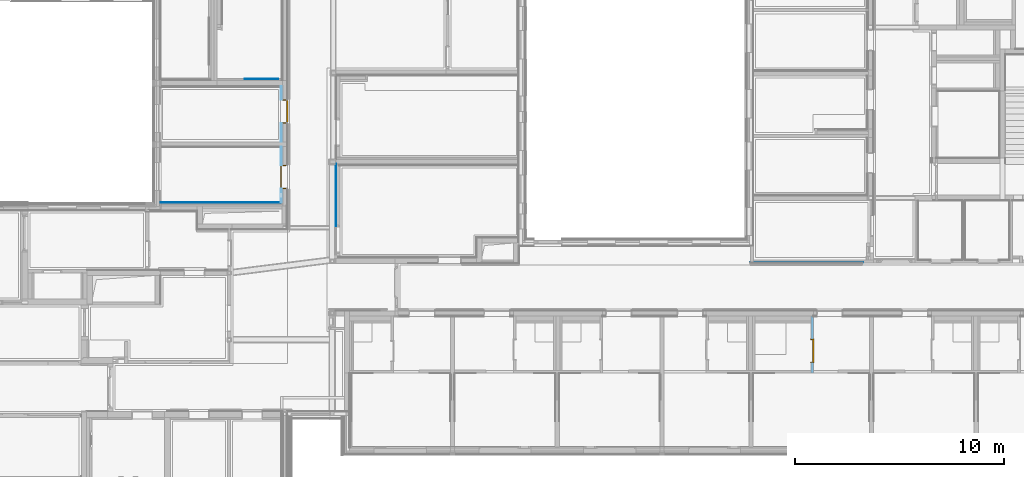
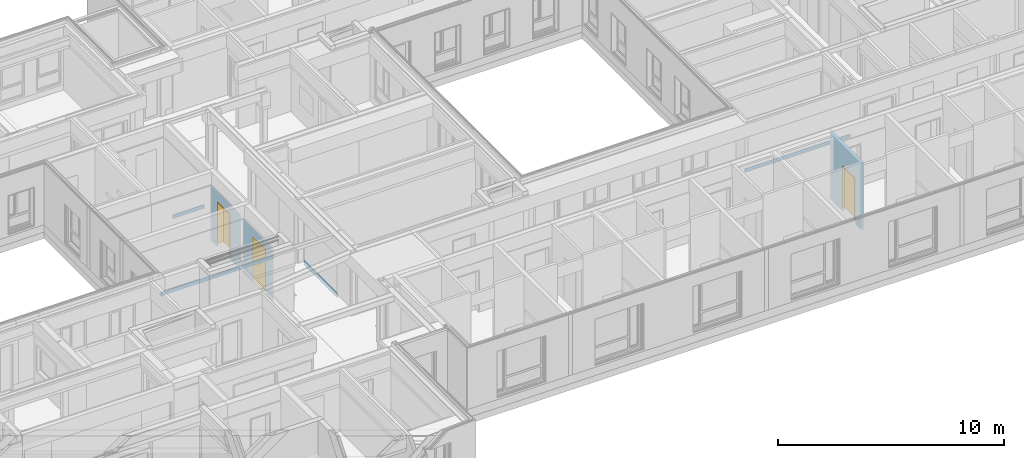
# One storey, part 127 of 207: 4 walls, 3 doors, 3 openings, plus 3 elements that do not belong to this part.
"""IFC4 building model written with IfcOpenShell, lengths in metres."""

from ifc_helpers import new_model, entity, si_unit, converted_unit, derived_unit, frame, frame_2d, origin, origin_with_axes, place, context, subcontext, project, spatial, polyline, rectangle, outline, extrude, faceted_brep, source, transform, mapped, material, type_object, element, fill, save


model = new_model("IFC4")

# Units and contexts
model_context = context("Model", 3, precision=1e-05, world=origin())
body_context = subcontext(model_context, "Body", "Model", "MODEL_VIEW")
ifc_project = project(units=[si_unit("LENGTHUNIT", "METRE"), si_unit("AREAUNIT", "SQUARE_METRE"), si_unit("VOLUMEUNIT", "CUBIC_METRE"), si_unit("MASSUNIT", "GRAM", prefix="KILO"), converted_unit("PLANEANGLEUNIT", "DEGREE", entity("IfcPlaneAngleMeasure", 0.0174532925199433), si_unit("PLANEANGLEUNIT", "RADIAN"), dimensions=[0, 0, 0, 0, 0, 0, 0]), derived_unit("THERMALTRANSMITTANCEUNIT", [(si_unit("POWERUNIT", "WATT"), 1), (si_unit("THERMODYNAMICTEMPERATUREUNIT", "KELVIN"), -1), (si_unit("LENGTHUNIT", "METRE"), -2)]), derived_unit("VOLUMETRICFLOWRATEUNIT", [(si_unit("LENGTHUNIT", "METRE"), 3), (converted_unit("TIMEUNIT", "hour", entity("IfcTimeMeasure", 3600.0), si_unit("TIMEUNIT", "SECOND"), dimensions=[0, 0, 1, 0, 0, 0, 0]), -1), (si_unit("LENGTHUNIT", "METRE"), -1)])], contexts=[model_context])

# Site, building, storey
site_placement = place(None, origin())
site = spatial("IfcSite", under=ifc_project, at=site_placement, Name="Psychiatrie Neubau Wunstorf", CompositionType="ELEMENT")
building_placement = place(site_placement, origin())
building = spatial("IfcBuilding", under=site, at=building_placement, Name="Neubau H2 Stationsgebäude", CompositionType="ELEMENT")
storey_placement = place(building_placement, frame((0.0, 0.0, -0.2)))
storey = spatial("IfcBuildingStorey", under=building, at=storey_placement, Name="H2 Ebene 0", CompositionType="ELEMENT", Elevation=-0.2)

# Walls
wall_1_placement = place(storey_placement, frame((66.0788893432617, 16.3860000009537, 1.55)))
element("IfcWall", 1, at=wall_1_placement, inside=storey, Name="WV 1.1", context=body_context, shape_type="Brep", body=[
    faceted_brep([(0.0, 0.025, 0.0), (0.0, 0.0, 0.0), (1.6, 0.0, 0.0), (1.6, 0.025, 0.0), (0.0, 0.0, 0.2), (0.0, 0.025, 0.2), (1.6, 0.025, 0.2), (1.6, 0.0, 0.2)], [[[0, 1, 2, 3]], [[4, 5, 6, 7]], [[1, 0, 5, 4]], [[2, 1, 4, 7]], [[3, 2, 7, 6]], [[0, 3, 6, 5]]], orient=[[False], [False], [False], [False], [False], [False]]),
])
wall_2_placement = place(storey_placement, frame((62.06100019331, 10.4959952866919, 2.35)))
element("IfcWall", 2, at=wall_2_placement, inside=storey, Name="WV 1.1", context=body_context, shape_type="Brep", body=[
    faceted_brep([(5.74, 0.0, 0.0), (5.74, 0.025, 0.0), (0.0, 0.0249999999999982, 0.0), (0.0, 0.0, 0.0), (5.74, 0.025, 0.2), (5.74, 0.0, 0.2), (0.0, 0.0, 0.2), (0.0, 0.0249999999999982, 0.2)], [[[0, 1, 2, 3]], [[4, 5, 6, 7]], [[1, 0, 5, 4]], [[2, 1, 4, 7]], [[3, 2, 7, 6]], [[0, 3, 6, 5]]], orient=[[False], [False], [False], [False], [False], [False]]),
])
wall_3_placement = place(storey_placement, frame((90.211, 7.62499989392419, 0.9)))
element("IfcWall", 3, at=wall_3_placement, inside=storey, Name="WV 1.1", context=body_context, shape_type="Brep", body=[
    faceted_brep([(0.0, 0.025, 0.0), (0.0, 0.0, 0.0), (5.4, 0.0, 0.0), (5.4, 0.025, 0.0), (0.0, 0.0, 0.2), (0.0, 0.025, 0.2), (5.4, 0.025, 0.2), (5.4, 0.0, 0.2)], [[[0, 1, 2, 3]], [[4, 5, 6, 7]], [[1, 0, 5, 4]], [[2, 1, 4, 7]], [[3, 2, 7, 6]], [[0, 3, 6, 5]]], orient=[[False], [False], [False], [False], [False], [False]]),
])

# Wall, opening, door
ifc_material_1 = material(Name="WI-LB")
wall_4_placement = place(storey_placement, frame((93.1000000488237, 5.1005, 0.0), z_axis=(0.0, 0.0, 1.0), x_axis=(0.0, -1.0, 0.0)))
wall_4 = element("IfcWall", 4, at=wall_4_placement, inside=storey, material=ifc_material_1, context=body_context, shape_type="SweptSolid", body=[
    extrude(rectangle(XDim=2.74, YDim=0.125, at=frame_2d((1.37, 0.0625), x_axis=(1.0, 0.0))), origin_with_axes(), (0.0, 0.0, 1.0), 3.6),
])
opening_1_placement = place(wall_4_placement, frame((1.105, 0.0, 0.0), z_axis=(0.0, 1.0, 0.0), x_axis=(0.0, 0.0, 1.0)))
opening_1 = element("IfcOpeningElement", 5, at=opening_1_placement, cuts=wall_4, Name="Türöffnung", ObjectType="Opening", context=body_context, shape_type="SweptSolid", body=[
    extrude(outline(polyline([(2.46, 1.135), (2.46, 0.0), (0.0, 0.0), (0.0, 1.135), (2.46, 1.135)])), origin_with_axes(), (0.0, 0.0, 1.0), 0.125),
])
ifc_material_2 = material(Name="TI-1F-UZ-D-N")
door_type_1 = type_object("IfcDoorType", Name="SMT", OperationType="SINGLE_SWING_RIGHT", ParameterTakesPrecedence=False, PredefinedType="DOOR")
shared_shape_1 = source(origin_with_axes(), body_context, "Body", "Brep", [
    faceted_brep([(-0.0499999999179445, 0.0125000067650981, 0.0), (0.0, 0.0125000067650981, 0.0), (0.0, 0.112499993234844, 0.0), (-0.0499999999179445, 0.112499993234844, 0.0), (-0.0499999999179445, 0.112499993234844, 3.6), (0.0, 0.112499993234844, 3.6), (0.0, 0.0125000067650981, 3.6), (-0.0499999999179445, 0.0125000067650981, 3.6)], [[[0, 1, 2, 3]], [[4, 5, 6, 7]], [[3, 4, 7, 0]], [[2, 5, 4, 3]], [[1, 6, 5, 2]], [[0, 7, 6, 1]]], orient=[[False], [False], [False], [False], [False], [False]]),
    faceted_brep([(1.135, 0.0125000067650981, 0.0), (1.18499999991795, 0.0125000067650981, 0.0), (1.18499999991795, 0.112499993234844, 0.0), (1.135, 0.112499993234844, 0.0), (1.135, 0.112499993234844, 3.6), (1.18499999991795, 0.112499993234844, 3.6), (1.18499999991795, 0.0125000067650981, 3.6), (1.135, 0.0125000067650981, 3.6)], [[[0, 1, 2, 3]], [[4, 5, 6, 7]], [[3, 4, 7, 0]], [[2, 5, 4, 3]], [[1, 6, 5, 2]], [[0, 7, 6, 1]]], orient=[[False], [False], [False], [False], [False], [False]]),
    faceted_brep([(0.0, 0.0125000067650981, 2.46), (1.135, 0.0125000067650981, 2.46), (1.135, 0.112499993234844, 2.46), (0.0, 0.112499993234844, 2.46), (0.0, 0.112499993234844, 2.51), (1.135, 0.112499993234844, 2.51), (1.135, 0.0125000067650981, 2.51), (0.0, 0.0125000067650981, 2.51)], [[[0, 1, 2, 3]], [[4, 5, 6, 7]], [[3, 4, 7, 0]], [[2, 5, 4, 3]], [[1, 6, 5, 2]], [[0, 7, 6, 1]]], orient=[[False], [False], [False], [False], [False], [False]]),
])
shared_shape_2 = source(origin_with_axes(), body_context, "Body", "Brep", [
    faceted_brep([(0.0, -0.0150000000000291, 2.46), (0.0400000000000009, -0.0150000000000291, 2.46), (0.0400000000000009, -0.0150000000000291, 0.2), (0.0, -0.0150000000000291, 0.2), (0.0, 0.139999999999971, 0.2), (0.0400000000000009, 0.139999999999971, 0.2), (0.0400000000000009, 0.139999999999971, 2.46), (0.0, 0.139999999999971, 2.46)], [[[0, 1, 2, 3]], [[4, 5, 6, 7]], [[3, 4, 7, 0]], [[2, 5, 4, 3]], [[1, 6, 5, 2]], [[0, 7, 6, 1]]], orient=[[False], [False], [False], [False], [False], [False]]),
    faceted_brep([(0.0, -0.0150000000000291, 2.475), (0.0, -0.0150000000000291, 0.2), (-0.0149999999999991, -0.0150000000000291, 0.2), (-0.0149999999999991, -0.0150000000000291, 2.475), (0.0, 0.0, 0.2), (0.0, 0.0, 2.475), (-0.0149999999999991, 0.0, 2.475), (-0.0149999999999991, 0.0, 0.2)], [[[0, 1, 2, 3]], [[4, 5, 6, 7]], [[1, 0, 5, 4]], [[2, 1, 4, 7]], [[3, 2, 7, 6]], [[0, 3, 6, 5]]], orient=[[False], [False], [False], [False], [False], [False]]),
    faceted_brep([(0.0, 0.124999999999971, 2.475), (0.0, 0.124999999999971, 0.2), (-0.0149999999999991, 0.124999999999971, 0.2), (-0.0149999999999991, 0.124999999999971, 2.475), (0.0, 0.139999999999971, 0.2), (0.0, 0.139999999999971, 2.475), (-0.0149999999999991, 0.139999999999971, 2.475), (-0.0149999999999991, 0.139999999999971, 0.2)], [[[0, 1, 2, 3]], [[4, 5, 6, 7]], [[1, 0, 5, 4]], [[2, 1, 4, 7]], [[3, 2, 7, 6]], [[0, 3, 6, 5]]], orient=[[False], [False], [False], [False], [False], [False]]),
    faceted_brep([(1.095, -0.0150000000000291, 2.46), (1.135, -0.0150000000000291, 2.46), (1.135, -0.0150000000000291, 0.2), (1.095, -0.0150000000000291, 0.2), (1.095, 0.139999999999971, 0.2), (1.135, 0.139999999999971, 0.2), (1.135, 0.139999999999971, 2.46), (1.095, 0.139999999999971, 2.46)], [[[0, 1, 2, 3]], [[4, 5, 6, 7]], [[3, 4, 7, 0]], [[2, 5, 4, 3]], [[1, 6, 5, 2]], [[0, 7, 6, 1]]], orient=[[False], [False], [False], [False], [False], [False]]),
    faceted_brep([(1.135, -0.0150000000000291, 2.475), (1.15, -0.0150000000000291, 2.475), (1.15, -0.0150000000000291, 0.2), (1.135, -0.0150000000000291, 0.2), (1.135, 0.0, 0.2), (1.15, 0.0, 0.2), (1.15, 0.0, 2.475), (1.135, 0.0, 2.475)], [[[0, 1, 2, 3]], [[4, 5, 6, 7]], [[3, 4, 7, 0]], [[2, 5, 4, 3]], [[1, 6, 5, 2]], [[0, 7, 6, 1]]], orient=[[False], [False], [False], [False], [False], [False]]),
    faceted_brep([(1.135, 0.124999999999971, 2.475), (1.15, 0.124999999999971, 2.475), (1.15, 0.124999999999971, 0.2), (1.135, 0.124999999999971, 0.2), (1.135, 0.139999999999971, 0.2), (1.15, 0.139999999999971, 0.2), (1.15, 0.139999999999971, 2.475), (1.135, 0.139999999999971, 2.475)], [[[0, 1, 2, 3]], [[4, 5, 6, 7]], [[3, 4, 7, 0]], [[2, 5, 4, 3]], [[1, 6, 5, 2]], [[0, 7, 6, 1]]], orient=[[False], [False], [False], [False], [False], [False]]),
    faceted_brep([(0.0400000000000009, -0.0150000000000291, 2.46), (1.095, -0.0150000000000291, 2.46), (1.095, -0.0150000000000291, 2.42), (0.0400000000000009, -0.0150000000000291, 2.42), (0.0400000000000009, 0.139999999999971, 2.42), (1.095, 0.139999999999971, 2.42), (1.095, 0.139999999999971, 2.46), (0.0400000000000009, 0.139999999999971, 2.46)], [[[0, 1, 2, 3]], [[4, 5, 6, 7]], [[3, 4, 7, 0]], [[2, 5, 4, 3]], [[1, 6, 5, 2]], [[0, 7, 6, 1]]], orient=[[False], [False], [False], [False], [False], [False]]),
    faceted_brep([(0.0, -0.0150000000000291, 2.475), (1.135, -0.0150000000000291, 2.475), (1.135, -0.0150000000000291, 2.46), (0.0, -0.0150000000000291, 2.46), (0.0, 0.0, 2.46), (1.135, 0.0, 2.46), (1.135, 0.0, 2.475), (0.0, 0.0, 2.475)], [[[0, 1, 2, 3]], [[4, 5, 6, 7]], [[3, 4, 7, 0]], [[2, 5, 4, 3]], [[1, 6, 5, 2]], [[0, 7, 6, 1]]], orient=[[False], [False], [False], [False], [False], [False]]),
    faceted_brep([(0.0, 0.124999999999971, 2.475), (1.135, 0.124999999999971, 2.475), (1.135, 0.124999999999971, 2.46), (0.0, 0.124999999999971, 2.46), (0.0, 0.139999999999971, 2.46), (1.135, 0.139999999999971, 2.46), (1.135, 0.139999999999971, 2.475), (0.0, 0.139999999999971, 2.475)], [[[0, 1, 2, 3]], [[4, 5, 6, 7]], [[3, 4, 7, 0]], [[2, 5, 4, 3]], [[1, 6, 5, 2]], [[0, 7, 6, 1]]], orient=[[False], [False], [False], [False], [False], [False]]),
    faceted_brep([(0.0250000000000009, 0.0909999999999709, 2.435), (1.11, 0.0909999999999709, 2.435), (1.11, 0.0909999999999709, 0.2), (0.0250000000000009, 0.0909999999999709, 0.2), (0.0250000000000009, 0.140999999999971, 0.2), (1.11, 0.140999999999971, 0.2), (1.11, 0.140999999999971, 2.435), (0.0250000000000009, 0.140999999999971, 2.435)], [[[0, 1, 2, 3]], [[4, 5, 6, 7]], [[3, 4, 7, 0]], [[2, 5, 4, 3]], [[1, 6, 5, 2]], [[0, 7, 6, 1]]], orient=[[False], [False], [False], [False], [False], [False]]),
])
door_1_placement = place(opening_1_placement, frame((0.0, 0.0, 0.0), z_axis=(1.0, 0.0, 0.0), x_axis=(0.0, 1.0, 0.0)))
door_1 = element("IfcDoor", 6, at=door_1_placement, inside=storey, type_object=door_type_1, material=ifc_material_2, Name="SMT", OverallHeight=2.46, OverallWidth=1.135, context=body_context, shape_type="MappedRepresentation", body=[
    mapped(shared_shape_1, transform((0.0, 0.0, 0.0), x_axis=(1.0, 0.0, 0.0), y_axis=(0.0, 1.0, 0.0), z_axis=(0.0, 0.0, 1.0), scale=1.0)),
    mapped(shared_shape_2, transform((0.0, 0.0, 0.0), x_axis=(1.0, 0.0, 0.0), y_axis=(0.0, 1.0, 0.0), z_axis=(0.0, 0.0, 1.0), scale=1.0)),
])
fill(opening_1, door_1)

ifc_material_3 = material(Name="WI-LB")
wall_5_placement = place(storey_placement, frame((67.796, 16.0535000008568, 0.0), z_axis=(0.0, 0.0, 1.0), x_axis=(0.0, -1.0, 0.0)))
wall_5 = element("IfcWall", 7, at=wall_5_placement, inside=storey, material=ifc_material_3, context=body_context, shape_type="SweptSolid", body=[
    extrude(rectangle(XDim=2.64400336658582, YDim=0.0395, at=frame_2d((1.32200168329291, 0.01975), x_axis=(1.0, 0.0))), origin_with_axes(), (0.0, 0.0, 1.0), 2.95),
])
opening_2_placement = place(wall_5_placement, frame((1.7635, 0.0395, 0.0), z_axis=(0.0, -1.0, 0.0), x_axis=(0.0, 0.0, 1.0)))
opening_2 = element("IfcOpeningElement", 8, at=opening_2_placement, cuts=wall_5, Name="Türöffnung", ObjectType="Opening", context=body_context, shape_type="SweptSolid", body=[
    extrude(outline(polyline([(2.46, 1.135), (2.46, 0.0), (0.0, 0.0), (0.0, 1.135), (2.46, 1.135)])), origin_with_axes(), (0.0, 0.0, 1.0), 0.0395),
])
ifc_material_4 = material(Name="TI-1F-UZ-D")
door_type_2 = type_object("IfcDoorType", Name="SMT", OperationType="SINGLE_SWING_RIGHT", ParameterTakesPrecedence=False, PredefinedType="DOOR")
shared_shape_3 = source(origin_with_axes(), body_context, "Body", "Brep", [
    faceted_brep([(0.0, -0.0150000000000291, 2.46), (0.0400000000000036, -0.0150000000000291, 2.46), (0.0400000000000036, -0.0150000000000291, 0.2), (0.0, -0.0150000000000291, 0.2), (0.0, 0.336499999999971, 0.2), (0.0400000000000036, 0.336499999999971, 0.2), (0.0400000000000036, 0.336499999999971, 2.46), (0.0, 0.336499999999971, 2.46)], [[[0, 1, 2, 3]], [[4, 5, 6, 7]], [[3, 4, 7, 0]], [[2, 5, 4, 3]], [[1, 6, 5, 2]], [[0, 7, 6, 1]]], orient=[[False], [False], [False], [False], [False], [False]]),
    faceted_brep([(0.0, -0.0150000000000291, 2.475), (0.0, -0.0150000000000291, 0.2), (-0.0149999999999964, -0.0150000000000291, 0.2), (-0.0149999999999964, -0.0150000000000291, 2.475), (0.0, 0.0, 0.2), (0.0, 0.0, 2.475), (-0.0149999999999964, 0.0, 2.475), (-0.0149999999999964, 0.0, 0.2)], [[[0, 1, 2, 3]], [[4, 5, 6, 7]], [[1, 0, 5, 4]], [[2, 1, 4, 7]], [[3, 2, 7, 6]], [[0, 3, 6, 5]]], orient=[[False], [False], [False], [False], [False], [False]]),
    faceted_brep([(0.0, 0.321499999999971, 2.475), (0.0, 0.321499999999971, 0.2), (-0.0149999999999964, 0.321499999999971, 0.2), (-0.0149999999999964, 0.321499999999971, 2.475), (0.0, 0.336499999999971, 0.2), (0.0, 0.336499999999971, 2.475), (-0.0149999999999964, 0.336499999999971, 2.475), (-0.0149999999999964, 0.336499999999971, 0.2)], [[[0, 1, 2, 3]], [[4, 5, 6, 7]], [[1, 0, 5, 4]], [[2, 1, 4, 7]], [[3, 2, 7, 6]], [[0, 3, 6, 5]]], orient=[[False], [False], [False], [False], [False], [False]]),
    faceted_brep([(1.095, -0.0150000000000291, 2.46), (1.135, -0.0150000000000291, 2.46), (1.135, -0.0150000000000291, 0.2), (1.095, -0.0150000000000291, 0.2), (1.095, 0.336499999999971, 0.2), (1.135, 0.336499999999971, 0.2), (1.135, 0.336499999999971, 2.46), (1.095, 0.336499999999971, 2.46)], [[[0, 1, 2, 3]], [[4, 5, 6, 7]], [[3, 4, 7, 0]], [[2, 5, 4, 3]], [[1, 6, 5, 2]], [[0, 7, 6, 1]]], orient=[[False], [False], [False], [False], [False], [False]]),
    faceted_brep([(1.135, -0.0150000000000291, 2.475), (1.15, -0.0150000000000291, 2.475), (1.15, -0.0150000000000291, 0.2), (1.135, -0.0150000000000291, 0.2), (1.135, 0.0, 0.2), (1.15, 0.0, 0.2), (1.15, 0.0, 2.475), (1.135, 0.0, 2.475)], [[[0, 1, 2, 3]], [[4, 5, 6, 7]], [[3, 4, 7, 0]], [[2, 5, 4, 3]], [[1, 6, 5, 2]], [[0, 7, 6, 1]]], orient=[[False], [False], [False], [False], [False], [False]]),
    faceted_brep([(1.135, 0.321499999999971, 2.475), (1.15, 0.321499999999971, 2.475), (1.15, 0.321499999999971, 0.2), (1.135, 0.321499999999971, 0.2), (1.135, 0.336499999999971, 0.2), (1.15, 0.336499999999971, 0.2), (1.15, 0.336499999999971, 2.475), (1.135, 0.336499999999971, 2.475)], [[[0, 1, 2, 3]], [[4, 5, 6, 7]], [[3, 4, 7, 0]], [[2, 5, 4, 3]], [[1, 6, 5, 2]], [[0, 7, 6, 1]]], orient=[[False], [False], [False], [False], [False], [False]]),
    faceted_brep([(0.0400000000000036, -0.0150000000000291, 2.46), (1.095, -0.0150000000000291, 2.46), (1.095, -0.0150000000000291, 2.42), (0.0400000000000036, -0.0150000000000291, 2.42), (0.0400000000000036, 0.336499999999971, 2.42), (1.095, 0.336499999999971, 2.42), (1.095, 0.336499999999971, 2.46), (0.0400000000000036, 0.336499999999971, 2.46)], [[[0, 1, 2, 3]], [[4, 5, 6, 7]], [[3, 4, 7, 0]], [[2, 5, 4, 3]], [[1, 6, 5, 2]], [[0, 7, 6, 1]]], orient=[[False], [False], [False], [False], [False], [False]]),
    faceted_brep([(0.0, -0.0150000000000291, 2.475), (1.135, -0.0150000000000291, 2.475), (1.135, -0.0150000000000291, 2.46), (0.0, -0.0150000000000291, 2.46), (0.0, 0.0, 2.46), (1.135, 0.0, 2.46), (1.135, 0.0, 2.475), (0.0, 0.0, 2.475)], [[[0, 1, 2, 3]], [[4, 5, 6, 7]], [[3, 4, 7, 0]], [[2, 5, 4, 3]], [[1, 6, 5, 2]], [[0, 7, 6, 1]]], orient=[[False], [False], [False], [False], [False], [False]]),
    faceted_brep([(0.0, 0.321499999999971, 2.475), (1.135, 0.321499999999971, 2.475), (1.135, 0.321499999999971, 2.46), (0.0, 0.321499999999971, 2.46), (0.0, 0.336499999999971, 2.46), (1.135, 0.336499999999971, 2.46), (1.135, 0.336499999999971, 2.475), (0.0, 0.336499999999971, 2.475)], [[[0, 1, 2, 3]], [[4, 5, 6, 7]], [[3, 4, 7, 0]], [[2, 5, 4, 3]], [[1, 6, 5, 2]], [[0, 7, 6, 1]]], orient=[[False], [False], [False], [False], [False], [False]]),
    faceted_brep([(0.0250000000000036, 0.287499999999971, 2.435), (1.11, 0.287499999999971, 2.435), (1.11, 0.287499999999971, 0.2), (0.0250000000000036, 0.287499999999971, 0.2), (0.0250000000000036, 0.337499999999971, 0.2), (1.11, 0.337499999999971, 0.2), (1.11, 0.337499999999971, 2.435), (0.0250000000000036, 0.337499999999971, 2.435)], [[[0, 1, 2, 3]], [[4, 5, 6, 7]], [[3, 4, 7, 0]], [[2, 5, 4, 3]], [[1, 6, 5, 2]], [[0, 7, 6, 1]]], orient=[[False], [False], [False], [False], [False], [False]]),
])
door_2_placement = place(opening_2_placement, frame((0.0, 1.135, 0.0395), z_axis=(1.0, 0.0, 0.0), x_axis=(0.0, -1.0, 0.0)))
door_2 = element("IfcDoor", 9, at=door_2_placement, inside=storey, type_object=door_type_2, material=ifc_material_4, Name="SMT", OverallHeight=2.46, OverallWidth=1.135, context=body_context, shape_type="MappedRepresentation", body=[
    mapped(shared_shape_3, transform((0.0, 0.0, 0.0), x_axis=(1.0, 0.0, 0.0), y_axis=(0.0, 1.0, 0.0), z_axis=(0.0, 0.0, 1.0), scale=1.0)),
])
fill(opening_2, door_2)

# Wall
wall_6_placement = place(storey_placement, frame((70.43, 9.37400000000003, 0.0)))
element("IfcWall", 10, at=wall_6_placement, inside=storey, Name="WV 1.1", context=body_context, shape_type="Brep", body=[
    faceted_brep([(0.025, 2.98, 0.0), (0.0, 2.98, 0.0), (0.0, 0.0, 0.0), (0.025, 0.0, 0.0), (0.0, 2.98, 0.25), (0.025, 2.98, 0.25), (0.025, 0.0, 0.25), (0.0, 0.0, 0.25)], [[[0, 1, 2, 3]], [[4, 5, 6, 7]], [[1, 0, 5, 4]], [[2, 1, 4, 7]], [[3, 2, 7, 6]], [[0, 3, 6, 5]]], orient=[[False], [False], [False], [False], [False], [False]]),
])

# Wall, opening, door
ifc_material_5 = material(Name="WI-LB")
wall_7_placement = place(storey_placement, frame((67.796, 13.177496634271, 0.0), z_axis=(0.0, 0.0, 1.0), x_axis=(0.0, -1.0, 0.0)))
wall_7 = element("IfcWall", 11, at=wall_7_placement, inside=storey, material=ifc_material_5, context=body_context, shape_type="SweptSolid", body=[
    extrude(rectangle(XDim=2.65650134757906, YDim=0.0395, at=frame_2d((1.32825067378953, 0.01975), x_axis=(1.0, 0.0))), origin_with_axes(), (0.0, 0.0, 1.0), 2.9),
])
opening_3_placement = place(wall_7_placement, frame((2.01892492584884, 0.0395, 0.0), z_axis=(0.0, -1.0, 0.0), x_axis=(0.0, 0.0, 1.0)))
opening_3 = element("IfcOpeningElement", 12, at=opening_3_placement, cuts=wall_7, Name="Türöffnung", ObjectType="Opening", context=body_context, shape_type="SweptSolid", body=[
    extrude(outline(polyline([(2.46, 1.135), (2.46, 0.0), (0.0, 0.0), (0.0, 1.135), (2.46, 1.135)])), origin_with_axes(), (0.0, 0.0, 1.0), 0.0395),
])
ifc_material_6 = material(Name="TI-1F-UZ-ZK")
door_type_3 = type_object("IfcDoorType", Name="SMT", OperationType="SINGLE_SWING_RIGHT", ParameterTakesPrecedence=False, PredefinedType="DOOR")
shared_shape_4 = source(origin_with_axes(), body_context, "Body", "Brep", [
    faceted_brep([(1.135, -0.0149999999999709, 2.46), (1.135, -0.0149999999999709, 0.2), (1.095, -0.0149999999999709, 0.2), (1.095, -0.0149999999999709, 2.46), (1.135, 0.336500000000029, 0.2), (1.135, 0.336500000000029, 2.46), (1.095, 0.336500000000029, 2.46), (1.095, 0.336500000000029, 0.2)], [[[0, 1, 2, 3]], [[4, 5, 6, 7]], [[1, 0, 5, 4]], [[2, 1, 4, 7]], [[3, 2, 7, 6]], [[0, 3, 6, 5]]], orient=[[False], [False], [False], [False], [False], [False]]),
    faceted_brep([(1.135, -0.0149999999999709, 2.475), (1.15, -0.0149999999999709, 2.475), (1.15, -0.0149999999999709, 0.2), (1.135, -0.0149999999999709, 0.2), (1.135, 0.0, 0.2), (1.15, 0.0, 0.2), (1.15, 0.0, 2.475), (1.135, 0.0, 2.475)], [[[0, 1, 2, 3]], [[4, 5, 6, 7]], [[3, 4, 7, 0]], [[2, 5, 4, 3]], [[1, 6, 5, 2]], [[0, 7, 6, 1]]], orient=[[False], [False], [False], [False], [False], [False]]),
    faceted_brep([(1.135, 0.321500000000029, 2.475), (1.15, 0.321500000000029, 2.475), (1.15, 0.321500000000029, 0.2), (1.135, 0.321500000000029, 0.2), (1.135, 0.336500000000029, 0.2), (1.15, 0.336500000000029, 0.2), (1.15, 0.336500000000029, 2.475), (1.135, 0.336500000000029, 2.475)], [[[0, 1, 2, 3]], [[4, 5, 6, 7]], [[3, 4, 7, 0]], [[2, 5, 4, 3]], [[1, 6, 5, 2]], [[0, 7, 6, 1]]], orient=[[False], [False], [False], [False], [False], [False]]),
    faceted_brep([(0.0399999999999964, -0.0149999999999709, 2.46), (0.0399999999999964, -0.0149999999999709, 0.2), (0.0, -0.0149999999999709, 0.2), (0.0, -0.0149999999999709, 2.46), (0.0399999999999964, 0.336500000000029, 0.2), (0.0399999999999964, 0.336500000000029, 2.46), (0.0, 0.336500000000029, 2.46), (0.0, 0.336500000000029, 0.2)], [[[0, 1, 2, 3]], [[4, 5, 6, 7]], [[1, 0, 5, 4]], [[2, 1, 4, 7]], [[3, 2, 7, 6]], [[0, 3, 6, 5]]], orient=[[False], [False], [False], [False], [False], [False]]),
    faceted_brep([(0.0, -0.0149999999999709, 2.475), (0.0, -0.0149999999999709, 0.2), (-0.0150000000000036, -0.0149999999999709, 0.2), (-0.0150000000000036, -0.0149999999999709, 2.475), (0.0, 0.0, 0.2), (0.0, 0.0, 2.475), (-0.0150000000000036, 0.0, 2.475), (-0.0150000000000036, 0.0, 0.2)], [[[0, 1, 2, 3]], [[4, 5, 6, 7]], [[1, 0, 5, 4]], [[2, 1, 4, 7]], [[3, 2, 7, 6]], [[0, 3, 6, 5]]], orient=[[False], [False], [False], [False], [False], [False]]),
    faceted_brep([(0.0, 0.321500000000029, 2.475), (0.0, 0.321500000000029, 0.2), (-0.0150000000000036, 0.321500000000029, 0.2), (-0.0150000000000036, 0.321500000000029, 2.475), (0.0, 0.336500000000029, 0.2), (0.0, 0.336500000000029, 2.475), (-0.0150000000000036, 0.336500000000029, 2.475), (-0.0150000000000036, 0.336500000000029, 0.2)], [[[0, 1, 2, 3]], [[4, 5, 6, 7]], [[1, 0, 5, 4]], [[2, 1, 4, 7]], [[3, 2, 7, 6]], [[0, 3, 6, 5]]], orient=[[False], [False], [False], [False], [False], [False]]),
    faceted_brep([(1.095, -0.0149999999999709, 2.46), (1.095, -0.0149999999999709, 2.42), (0.0399999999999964, -0.0149999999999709, 2.42), (0.0399999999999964, -0.0149999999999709, 2.46), (1.095, 0.336500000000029, 2.42), (1.095, 0.336500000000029, 2.46), (0.0399999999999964, 0.336500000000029, 2.46), (0.0399999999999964, 0.336500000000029, 2.42)], [[[0, 1, 2, 3]], [[4, 5, 6, 7]], [[1, 0, 5, 4]], [[2, 1, 4, 7]], [[3, 2, 7, 6]], [[0, 3, 6, 5]]], orient=[[False], [False], [False], [False], [False], [False]]),
    faceted_brep([(1.135, -0.0149999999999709, 2.475), (1.135, -0.0149999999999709, 2.46), (0.0, -0.0149999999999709, 2.46), (0.0, -0.0149999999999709, 2.475), (1.135, 0.0, 2.46), (1.135, 0.0, 2.475), (0.0, 0.0, 2.475), (0.0, 0.0, 2.46)], [[[0, 1, 2, 3]], [[4, 5, 6, 7]], [[1, 0, 5, 4]], [[2, 1, 4, 7]], [[3, 2, 7, 6]], [[0, 3, 6, 5]]], orient=[[False], [False], [False], [False], [False], [False]]),
    faceted_brep([(1.135, 0.321500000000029, 2.475), (1.135, 0.321500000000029, 2.46), (0.0, 0.321500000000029, 2.46), (0.0, 0.321500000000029, 2.475), (1.135, 0.336500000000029, 2.46), (1.135, 0.336500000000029, 2.475), (0.0, 0.336500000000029, 2.475), (0.0, 0.336500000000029, 2.46)], [[[0, 1, 2, 3]], [[4, 5, 6, 7]], [[1, 0, 5, 4]], [[2, 1, 4, 7]], [[3, 2, 7, 6]], [[0, 3, 6, 5]]], orient=[[False], [False], [False], [False], [False], [False]]),
    faceted_brep([(1.11, 0.287500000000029, 2.435), (1.11, 0.287500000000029, 0.2), (0.0249999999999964, 0.287500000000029, 0.2), (0.0249999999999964, 0.287500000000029, 2.435), (1.11, 0.337500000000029, 0.2), (1.11, 0.337500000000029, 2.435), (0.0249999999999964, 0.337500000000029, 2.435), (0.0249999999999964, 0.337500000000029, 0.2)], [[[0, 1, 2, 3]], [[4, 5, 6, 7]], [[1, 0, 5, 4]], [[2, 1, 4, 7]], [[3, 2, 7, 6]], [[0, 3, 6, 5]]], orient=[[False], [False], [False], [False], [False], [False]]),
])
door_3_placement = place(opening_3_placement, frame((0.0, 0.0, -0.282), z_axis=(1.0, 0.0, 0.0), x_axis=(0.0, 1.0, 0.0)))
door_3 = element("IfcDoor", 13, at=door_3_placement, inside=storey, type_object=door_type_3, material=ifc_material_6, Name="SMT", OverallHeight=2.46, OverallWidth=1.135, context=body_context, shape_type="MappedRepresentation", body=[
    mapped(shared_shape_4, transform((0.0, 0.0, 0.0), x_axis=(1.0, 0.0, 0.0), y_axis=(0.0, 1.0, 0.0), z_axis=(0.0, 0.0, 1.0), scale=1.0)),
])
fill(opening_3, door_3)

save(model, "model.ifc")
